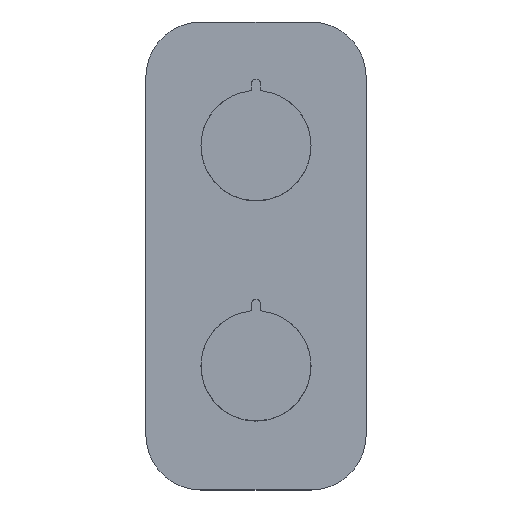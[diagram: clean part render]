
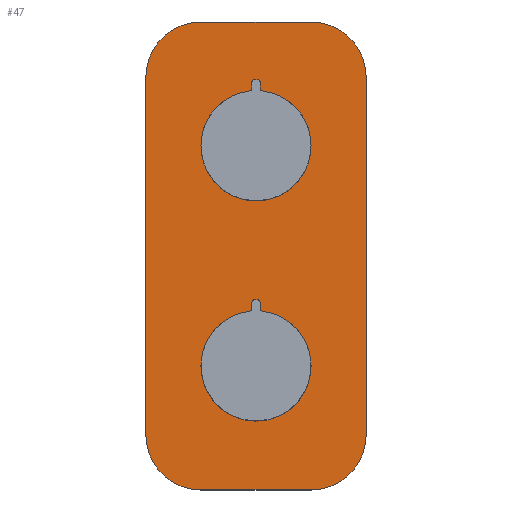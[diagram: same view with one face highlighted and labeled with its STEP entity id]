
A CAD part, top view. The second image highlights one B-rep face of the part: STEP entity #47.
In plain terms, the highlighted planar face has unit normal (0, 0, 1).
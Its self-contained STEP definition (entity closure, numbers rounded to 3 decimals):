
#47 = ADVANCED_FACE('',(#48),#118,.T.);
#48 = FACE_BOUND('',#49,.T.);
#49 = EDGE_LOOP('',(#50,#60,#69,#77,#86,#94,#103,#111));
#50 = ORIENTED_EDGE('',*,*,#51,.T.);
#51 = EDGE_CURVE('',#52,#54,#56,.T.);
#52 = VERTEX_POINT('',#53);
#53 = CARTESIAN_POINT('',(20.,85.,5.
    ));
#54 = VERTEX_POINT('',#55);
#55 = CARTESIAN_POINT('',(-20.,85.,5.
    ));
#56 = LINE('',#57,#58);
#57 = CARTESIAN_POINT('',(20.,85.,5.
    ));
#58 = VECTOR('',#59,1.);
#59 = DIRECTION('',(-1.,0.,0.));
#60 = ORIENTED_EDGE('',*,*,#61,.T.);
#61 = EDGE_CURVE('',#54,#62,#64,.T.);
#62 = VERTEX_POINT('',#63);
#63 = CARTESIAN_POINT('',(-40.,65.,5.
    ));
#64 = CIRCLE('',#65,20.);
#65 = AXIS2_PLACEMENT_3D('',#66,#67,#68);
#66 = CARTESIAN_POINT('',(-20.,65.,5.
    ));
#67 = DIRECTION('',(0.,0.,1.));
#68 = DIRECTION('',(1.,0.,-0.));
#69 = ORIENTED_EDGE('',*,*,#70,.T.);
#70 = EDGE_CURVE('',#62,#71,#73,.T.);
#71 = VERTEX_POINT('',#72);
#72 = CARTESIAN_POINT('',(-40.,-65.,5.
    ));
#73 = LINE('',#74,#75);
#74 = CARTESIAN_POINT('',(-40.,65.,5.
    ));
#75 = VECTOR('',#76,1.);
#76 = DIRECTION('',(0.,-1.,0.));
#77 = ORIENTED_EDGE('',*,*,#78,.T.);
#78 = EDGE_CURVE('',#71,#79,#81,.T.);
#79 = VERTEX_POINT('',#80);
#80 = CARTESIAN_POINT('',(-20.,-85.,5.
    ));
#81 = CIRCLE('',#82,20.);
#82 = AXIS2_PLACEMENT_3D('',#83,#84,#85);
#83 = CARTESIAN_POINT('',(-20.,-65.,5.
    ));
#84 = DIRECTION('',(0.,0.,1.));
#85 = DIRECTION('',(1.,0.,-0.));
#86 = ORIENTED_EDGE('',*,*,#87,.T.);
#87 = EDGE_CURVE('',#79,#88,#90,.T.);
#88 = VERTEX_POINT('',#89);
#89 = CARTESIAN_POINT('',(20.,-85.,5.
    ));
#90 = LINE('',#91,#92);
#91 = CARTESIAN_POINT('',(-20.,-85.,5.
    ));
#92 = VECTOR('',#93,1.);
#93 = DIRECTION('',(1.,0.,0.));
#94 = ORIENTED_EDGE('',*,*,#95,.T.);
#95 = EDGE_CURVE('',#88,#96,#98,.T.);
#96 = VERTEX_POINT('',#97);
#97 = CARTESIAN_POINT('',(40.,-65.,5.
    ));
#98 = CIRCLE('',#99,20.);
#99 = AXIS2_PLACEMENT_3D('',#100,#101,#102);
#100 = CARTESIAN_POINT('',(20.,-65.,
    5.));
#101 = DIRECTION('',(0.,0.,1.));
#102 = DIRECTION('',(1.,0.,-0.));
#103 = ORIENTED_EDGE('',*,*,#104,.T.);
#104 = EDGE_CURVE('',#96,#105,#107,.T.);
#105 = VERTEX_POINT('',#106);
#106 = CARTESIAN_POINT('',(40.,65.,
    5.));
#107 = LINE('',#108,#109);
#108 = CARTESIAN_POINT('',(40.,-65.,
    5.));
#109 = VECTOR('',#110,1.);
#110 = DIRECTION('',(0.,1.,0.));
#111 = ORIENTED_EDGE('',*,*,#112,.T.);
#112 = EDGE_CURVE('',#105,#52,#113,.T.);
#113 = CIRCLE('',#114,20.);
#114 = AXIS2_PLACEMENT_3D('',#115,#116,#117);
#115 = CARTESIAN_POINT('',(20.,65.,
    5.));
#116 = DIRECTION('',(0.,0.,1.));
#117 = DIRECTION('',(1.,0.,-0.));
#118 = PLANE('',#119);
#119 = AXIS2_PLACEMENT_3D('',#120,#121,#122);
#120 = CARTESIAN_POINT('',(-20.,85.,
    5.));
#121 = DIRECTION('',(0.,0.,1.));
#122 = DIRECTION('',(-1.,0.,0.));
